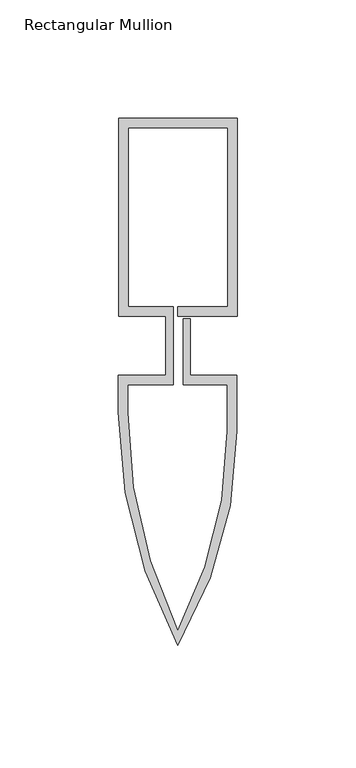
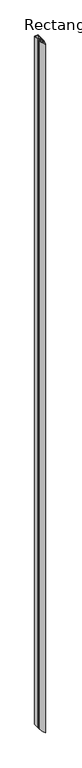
"""IFC4 building model written with IfcOpenShell, lengths in millimetres: member geometry, Rectangular Mullion : Reynaers_CW-50_Mullion-Transom_Vertical_83.5mm_Facecap-05."""

from ifc_helpers import new_model, si_unit, point, frame, frame_2d, origin, place, context, project, spatial, polyline, circle_curve, trimmed, segment, composite_curve, outline, extrude, source, transform, mapped, element, save


def rectangular_mullion_228efdd4(model_context):
    return source(origin(), model_context, "Body", "SweptSolid", [
        extrude(outline(composite_curve([segment(polyline([(-24.8004059, 96.0), (25.1995941, 96.0), (25.1995941, 12.5), (0.0, 12.5), (0.0, 16.5), (21.1995941, 16.5), (21.1995941, 92.0), (-20.8004059, 92.0), (-20.8004059, 16.5), (-1.9004059, 16.5), (-1.9004059, -16.5), (-20.994845, -16.5), (-20.994845, -28.2355063)]), True, "CONTINUOUS"), segment(trimmed(circle_curve(frame_2d((191.2554764, -28.2355063)), 212.2503214), [point((-20.994845, -28.2355063))], [point((0.0, -120.2764846))], True, "CARTESIAN"), True, "CONTINUOUS"), segment(trimmed(circle_curve(frame_2d((-158.432152, -36.0547506)), 179.426997), [point((0.0, -120.2764846))], [point((20.994845, -36.0547506))], True, "CARTESIAN"), True, "CONTINUOUS"), segment(polyline([(20.994845, -36.0547506), (20.994845, -16.5), (2.2995941, -16.5), (2.2995941, 11.5), (5.2995941, 11.5), (5.2995941, -12.5), (24.994845, -12.5), (24.994845, -36.0195976)]), True, "CONTINUOUS"), segment(trimmed(circle_curve(frame_2d((-151.2704106, -36.0195976)), 176.2652556), [point((24.994845, -36.0195976))], [point((0.0, -126.5))], False, "CARTESIAN"), True, "CONTINUOUS"), segment(trimmed(circle_curve(frame_2d((181.1469577, -28.111878)), 206.1418028), [point((0.0, -126.5))], [point((-24.994845, -28.111878))], False, "CARTESIAN"), True, "CONTINUOUS"), segment(polyline([(-24.994845, -28.111878), (-24.994845, -12.5), (-4.9004059, -12.5), (-4.9004059, 12.5), (-24.8004059, 12.5), (-24.8004059, 96.0)]), True, "CONTINUOUS")], self_intersect=False)), frame((0.0, 0.0, -10400.0), z_axis=(0.0, 0.0, 1.0), x_axis=(1.0, 0.0, 0.0)), (0.0, 0.0, 1.0), 10400.0),
    ])


if __name__ == "__main__":
    model = new_model("IFC4")
    model_context = context("Model", 3, world=origin())
    ifc_project = project(units=[si_unit("LENGTHUNIT", "METRE", prefix="MILLI")], contexts=[model_context])
    site = spatial("IfcSite", under=ifc_project)
    building = spatial("IfcBuilding", under=site)
    placement = place(None, origin())
    rectangular_mullion_shape = rectangular_mullion_228efdd4(model_context)
    element("IfcMember", 1, ObjectType="Rectangular Mullion : Reynaers_CW-50_Mullion-Transom_Vertical_83.5mm_Facecap-05", at=placement, inside=building, context=model_context, shape_type="MappedRepresentation", body=[
        mapped(rectangular_mullion_shape, transform((0.0, 0.0, 0.0), x_axis=(1.0, 0.0, 0.0), y_axis=(0.0, 1.0, 0.0), z_axis=(0.0, 0.0, 1.0))),
    ])
    save(model, "model.ifc")
